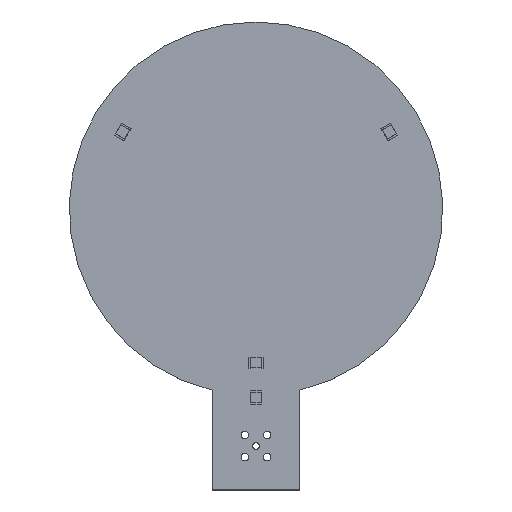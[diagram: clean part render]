
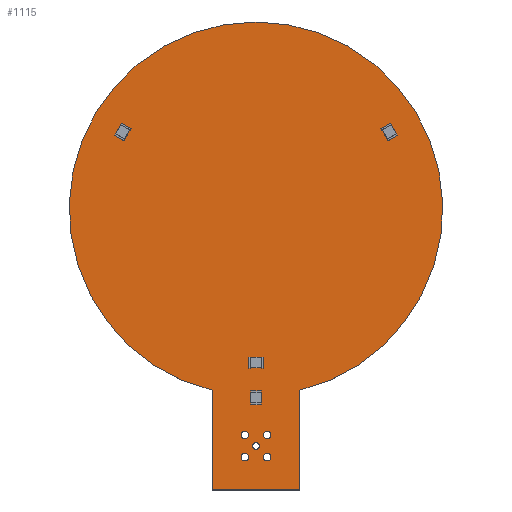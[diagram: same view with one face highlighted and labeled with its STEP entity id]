
A CAD part, top view. The second image highlights one B-rep face of the part: STEP entity #1115.
In plain terms, the highlighted planar face has unit normal (0, 0, 1).
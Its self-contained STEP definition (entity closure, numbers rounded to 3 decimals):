
#946 = VERTEX_POINT('',#947);
#947 = CARTESIAN_POINT('',(90.,-141.307,1.53));
#953 = EDGE_CURVE('',#946,#954,#956,.T.);
#954 = VERTEX_POINT('',#955);
#955 = CARTESIAN_POINT('',(110.,-141.307,1.53));
#956 = CIRCLE('',#957,42.5);
#957 = AXIS2_PLACEMENT_3D('',#958,#959,#960);
#958 = CARTESIAN_POINT('',(100.,-100.,1.53));
#959 = DIRECTION('',(0.,0.,-1.));
#960 = DIRECTION('',(-0.235,-0.972,-0.));
#988 = VERTEX_POINT('',#989);
#989 = CARTESIAN_POINT('',(90.,-164.,1.53));
#995 = EDGE_CURVE('',#988,#946,#996,.T.);
#996 = LINE('',#997,#998);
#997 = CARTESIAN_POINT('',(90.,-164.,1.53));
#998 = VECTOR('',#999,1.);
#999 = DIRECTION('',(0.,1.,0.));
#1017 = EDGE_CURVE('',#954,#1018,#1020,.T.);
#1018 = VERTEX_POINT('',#1019);
#1019 = CARTESIAN_POINT('',(110.,-164.,1.53));
#1020 = LINE('',#1021,#1022);
#1021 = CARTESIAN_POINT('',(110.,-141.307,1.53));
#1022 = VECTOR('',#1023,1.);
#1023 = DIRECTION('',(0.,-1.,0.));
#1115 = ADVANCED_FACE('',(#1116,#1127,#1138,#1149,#1160,#1171),#1182,.T.
  );
#1116 = FACE_BOUND('',#1117,.T.);
#1117 = EDGE_LOOP('',(#1118,#1119,#1120,#1126));
#1118 = ORIENTED_EDGE('',*,*,#953,.F.);
#1119 = ORIENTED_EDGE('',*,*,#995,.F.);
#1120 = ORIENTED_EDGE('',*,*,#1121,.F.);
#1121 = EDGE_CURVE('',#1018,#988,#1122,.T.);
#1122 = LINE('',#1123,#1124);
#1123 = CARTESIAN_POINT('',(110.,-164.,1.53));
#1124 = VECTOR('',#1125,1.);
#1125 = DIRECTION('',(-1.,0.,0.));
#1126 = ORIENTED_EDGE('',*,*,#1017,.F.);
#1127 = FACE_BOUND('',#1128,.T.);
#1128 = EDGE_LOOP('',(#1129));
#1129 = ORIENTED_EDGE('',*,*,#1130,.T.);
#1130 = EDGE_CURVE('',#1131,#1131,#1133,.T.);
#1131 = VERTEX_POINT('',#1132);
#1132 = CARTESIAN_POINT('',(97.46,-157.39,1.53));
#1133 = CIRCLE('',#1134,0.85);
#1134 = AXIS2_PLACEMENT_3D('',#1135,#1136,#1137);
#1135 = CARTESIAN_POINT('',(97.46,-156.54,1.53));
#1136 = DIRECTION('',(-0.,0.,-1.));
#1137 = DIRECTION('',(0.,-1.,0.));
#1138 = FACE_BOUND('',#1139,.T.);
#1139 = EDGE_LOOP('',(#1140));
#1140 = ORIENTED_EDGE('',*,*,#1141,.T.);
#1141 = EDGE_CURVE('',#1142,#1142,#1144,.T.);
#1142 = VERTEX_POINT('',#1143);
#1143 = CARTESIAN_POINT('',(100.,-154.75,1.53));
#1144 = CIRCLE('',#1145,0.75);
#1145 = AXIS2_PLACEMENT_3D('',#1146,#1147,#1148);
#1146 = CARTESIAN_POINT('',(100.,-154.,1.53));
#1147 = DIRECTION('',(-0.,0.,-1.));
#1148 = DIRECTION('',(-0.,-1.,0.));
#1149 = FACE_BOUND('',#1150,.T.);
#1150 = EDGE_LOOP('',(#1151));
#1151 = ORIENTED_EDGE('',*,*,#1152,.T.);
#1152 = EDGE_CURVE('',#1153,#1153,#1155,.T.);
#1153 = VERTEX_POINT('',#1154);
#1154 = CARTESIAN_POINT('',(102.54,-157.39,1.53));
#1155 = CIRCLE('',#1156,0.85);
#1156 = AXIS2_PLACEMENT_3D('',#1157,#1158,#1159);
#1157 = CARTESIAN_POINT('',(102.54,-156.54,1.53));
#1158 = DIRECTION('',(-0.,0.,-1.));
#1159 = DIRECTION('',(0.,-1.,-0.));
#1160 = FACE_BOUND('',#1161,.T.);
#1161 = EDGE_LOOP('',(#1162));
#1162 = ORIENTED_EDGE('',*,*,#1163,.T.);
#1163 = EDGE_CURVE('',#1164,#1164,#1166,.T.);
#1164 = VERTEX_POINT('',#1165);
#1165 = CARTESIAN_POINT('',(97.46,-152.31,1.53));
#1166 = CIRCLE('',#1167,0.85);
#1167 = AXIS2_PLACEMENT_3D('',#1168,#1169,#1170);
#1168 = CARTESIAN_POINT('',(97.46,-151.46,1.53));
#1169 = DIRECTION('',(-0.,0.,-1.));
#1170 = DIRECTION('',(0.,-1.,0.));
#1171 = FACE_BOUND('',#1172,.T.);
#1172 = EDGE_LOOP('',(#1173));
#1173 = ORIENTED_EDGE('',*,*,#1174,.T.);
#1174 = EDGE_CURVE('',#1175,#1175,#1177,.T.);
#1175 = VERTEX_POINT('',#1176);
#1176 = CARTESIAN_POINT('',(102.54,-152.31,1.53));
#1177 = CIRCLE('',#1178,0.85);
#1178 = AXIS2_PLACEMENT_3D('',#1179,#1180,#1181);
#1179 = CARTESIAN_POINT('',(102.54,-151.46,1.53));
#1180 = DIRECTION('',(-0.,0.,-1.));
#1181 = DIRECTION('',(0.,-1.,-0.));
#1182 = PLANE('',#1183);
#1183 = AXIS2_PLACEMENT_3D('',#1184,#1185,#1186);
#1184 = CARTESIAN_POINT('',(0.,0.,1.53));
#1185 = DIRECTION('',(0.,0.,1.));
#1186 = DIRECTION('',(1.,0.,-0.));
